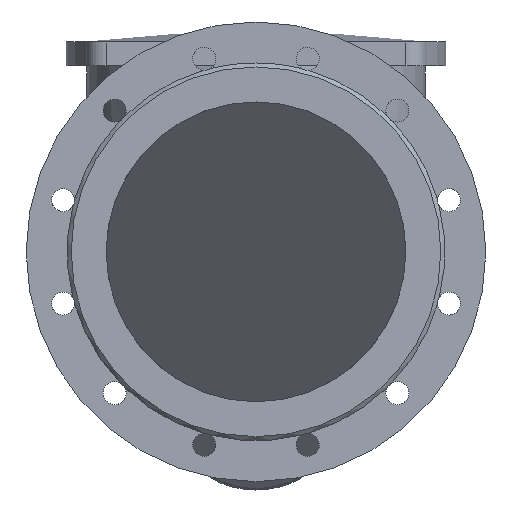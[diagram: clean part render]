
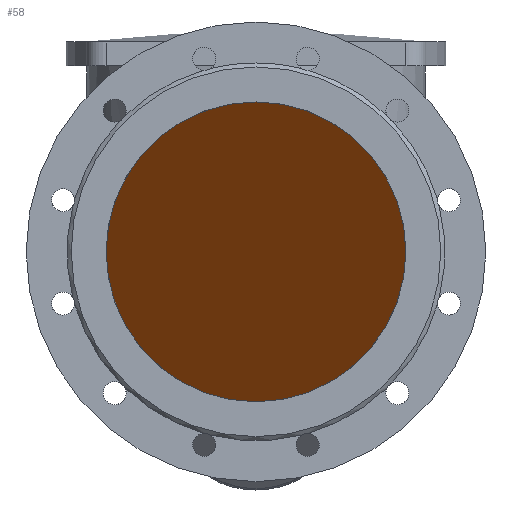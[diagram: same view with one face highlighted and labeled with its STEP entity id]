
A CAD part, front view. The second image highlights one B-rep face of the part: STEP entity #58.
In plain terms, the highlighted planar face has unit normal (0, -0.707, -0.707).
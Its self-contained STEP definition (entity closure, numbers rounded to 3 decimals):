
#58=ADVANCED_FACE('',(#734),#736,.T.);
#734=FACE_BOUND('',#735,.T.);
#735=EDGE_LOOP('',(#2633));
#736=PLANE('',#737);
#737=AXIS2_PLACEMENT_3D('',#738,#739,#740);
#738=CARTESIAN_POINT('',(-230.,-166.141,166.141));
#739=DIRECTION('',(0.,-0.707,-0.707));
#740=DIRECTION('',(0.,0.707,-0.707));
#2633=ORIENTED_EDGE('',*,*,#3078,.T.);
#3078=EDGE_CURVE('',#3297,#3297,#3298,.F.);
#3297=VERTEX_POINT('',#3676);
#3298=(BOUNDED_CURVE()B_SPLINE_CURVE(3,
(#3677,#3678,#3679,#3680,#3681,#3682,#3683),
.UNSPECIFIED.,.T.,.F.)B_SPLINE_CURVE_WITH_KNOTS((4,3,4),
(0.,0.5,1.),
.UNSPECIFIED.)CURVE()GEOMETRIC_REPRESENTATION_ITEM()RATIONAL_B_SPLINE_CURVE((1.,
0.333,0.333,1.,0.333,0.333,1.))
REPRESENTATION_ITEM(''));
#3676=CARTESIAN_POINT('',(0.,-150.,150.));
#3677=CARTESIAN_POINT('',(0.,-150.,150.));
#3678=CARTESIAN_POINT('',(300.,-150.,150.));
#3679=CARTESIAN_POINT('',(300.,150.,-150.));
#3680=CARTESIAN_POINT('',(0.,150.,-150.));
#3681=CARTESIAN_POINT('',(-300.,150.,-150.));
#3682=CARTESIAN_POINT('',(-300.,-150.,150.));
#3683=CARTESIAN_POINT('',(0.,-150.,150.));
